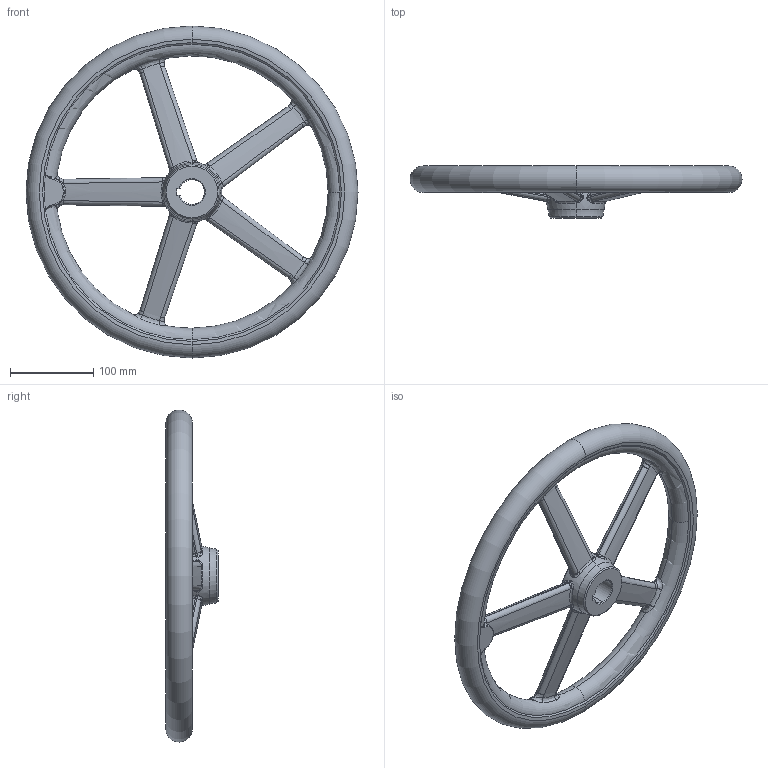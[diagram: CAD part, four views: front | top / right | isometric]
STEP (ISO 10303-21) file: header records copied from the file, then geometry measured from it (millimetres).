
FILE_DESCRIPTION (( 'STEP AP203' ), '1' );
FILE_NAME ('din950_a3_400x30.step', '2010-03-23T09:53:53', ( '_' ), ( '_' ), 'SwSTEP 2.0', 'SolidWorks 2010', '' );
FILE_SCHEMA (( 'CONFIG_CONTROL_DESIGN' ));
Length unit declared in the file: millimetre
Products named in the file (1): din950_a3_400x30
Bounding box: 400 x 63 x 400 mm (x, y, z)
Volume: 1395207.7 mm3; surface area: 189374.2 mm2
Topology: 1 solids, 1 shells, 254 faces, 631 edges, 328 vertices
Faces by surface type: bspline 196, torus 18, cone 18, plane 17, cylinder 5
Entity records: 59406 total; most frequent: CARTESIAN_POINT 54817, ORIENTED_EDGE 1174, EDGE_CURVE 587, DIRECTION 528, B_SPLINE_CURVE_WITH_KNOTS 368, VERTEX_POINT 328, EDGE_LOOP 259, ADVANCED_FACE 254
